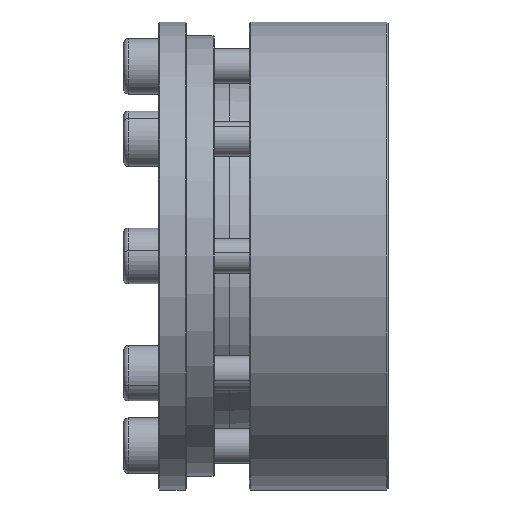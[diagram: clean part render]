
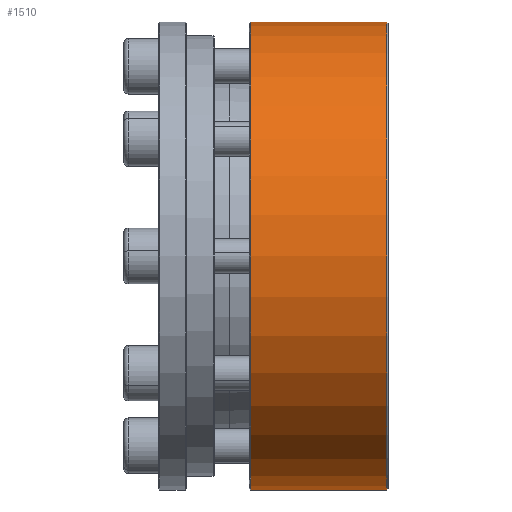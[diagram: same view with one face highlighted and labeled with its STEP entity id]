
A CAD part, front view. The second image highlights one B-rep face of the part: STEP entity #1510.
In plain terms, the highlighted cylindrical face has radius 67.44 mm (diameter 134.88 mm), a partial arc.
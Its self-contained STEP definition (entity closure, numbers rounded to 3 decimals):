
#503 = VECTOR ( 'NONE', #7581, 1000. ) ;
#636 = AXIS2_PLACEMENT_3D ( 'NONE', #9868, #4085, #1263 ) ;
#848 = ORIENTED_EDGE ( 'NONE', *, *, #8046, .T. ) ;
#939 = LINE ( 'NONE', #1046, #503 ) ;
#1035 = DIRECTION ( 'NONE',  ( 0., 0., 1. ) ) ;
#1046 = CARTESIAN_POINT ( 'NONE',  ( -79.581, 26.04, 67.44 ) ) ;
#1263 = DIRECTION ( 'NONE',  ( 0., 0., 1. ) ) ;
#1468 = CARTESIAN_POINT ( 'NONE',  ( -79.181, 26.04, 67.44 ) ) ;
#1493 = CIRCLE ( 'NONE', #9839, 67.44 ) ;
#1510 = ADVANCED_FACE ( 'NONE', ( #7568 ), #7463, .T. ) ;
#2585 = EDGE_LOOP ( 'NONE', ( #6287, #848, #9788, #8459 ) ) ;
#2794 = LINE ( 'NONE', #5331, #8290 ) ;
#2991 = CARTESIAN_POINT ( 'NONE',  ( -39.981, 26.04, 67.44 ) ) ;
#3561 = EDGE_CURVE ( 'NONE', #8613, #9102, #2794, .T. ) ;
#3688 = CARTESIAN_POINT ( 'NONE',  ( -79.181, 26.04, -67.44 ) ) ;
#4076 = CARTESIAN_POINT ( 'NONE',  ( -79.181, 26.04, 0. ) ) ;
#4085 = DIRECTION ( 'NONE',  ( -1., 0., 0. ) ) ;
#4379 = VERTEX_POINT ( 'NONE', #1468 ) ;
#4877 = DIRECTION ( 'NONE',  ( 1., 0., 0. ) ) ;
#5190 = AXIS2_PLACEMENT_3D ( 'NONE', #6778, #5874, #1035 ) ;
#5331 = CARTESIAN_POINT ( 'NONE',  ( -79.581, 26.04, -67.44 ) ) ;
#5568 = CIRCLE ( 'NONE', #636, 67.44 ) ;
#5874 = DIRECTION ( 'NONE',  ( -1., 0., 0. ) ) ;
#6236 = VERTEX_POINT ( 'NONE', #2991 ) ;
#6287 = ORIENTED_EDGE ( 'NONE', *, *, #3561, .F. ) ;
#6778 = CARTESIAN_POINT ( 'NONE',  ( -79.581, 26.04, 0. ) ) ;
#7463 = CYLINDRICAL_SURFACE ( 'NONE', #5190, 67.44 ) ;
#7568 = FACE_OUTER_BOUND ( 'NONE', #2585, .T. ) ;
#7581 = DIRECTION ( 'NONE',  ( -1., 0., 0. ) ) ;
#8046 = EDGE_CURVE ( 'NONE', #8613, #6236, #5568, .T. ) ;
#8290 = VECTOR ( 'NONE', #8491, 1000. ) ;
#8412 = CARTESIAN_POINT ( 'NONE',  ( -39.981, 26.04, -67.44 ) ) ;
#8459 = ORIENTED_EDGE ( 'NONE', *, *, #9767, .T. ) ;
#8491 = DIRECTION ( 'NONE',  ( -1., 0., 0. ) ) ;
#8613 = VERTEX_POINT ( 'NONE', #8412 ) ;
#9102 = VERTEX_POINT ( 'NONE', #3688 ) ;
#9361 = EDGE_CURVE ( 'NONE', #6236, #4379, #939, .T. ) ;
#9757 = DIRECTION ( 'NONE',  ( 0., 0., -1. ) ) ;
#9767 = EDGE_CURVE ( 'NONE', #4379, #9102, #1493, .T. ) ;
#9788 = ORIENTED_EDGE ( 'NONE', *, *, #9361, .T. ) ;
#9839 = AXIS2_PLACEMENT_3D ( 'NONE', #4076, #4877, #9757 ) ;
#9868 = CARTESIAN_POINT ( 'NONE',  ( -39.981, 26.04, 0. ) ) ;
